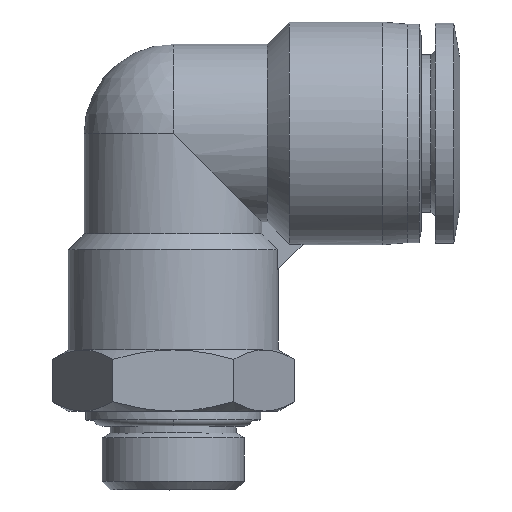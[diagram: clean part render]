
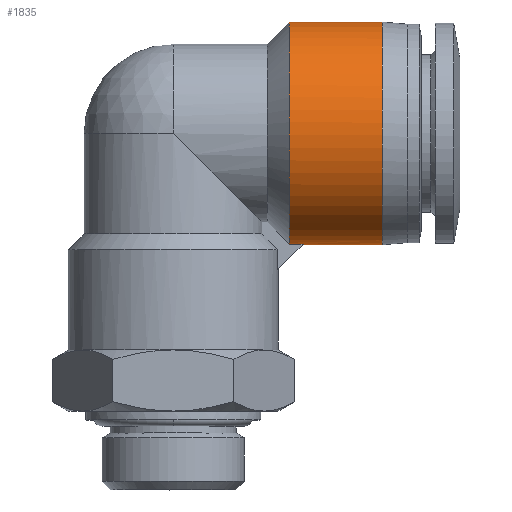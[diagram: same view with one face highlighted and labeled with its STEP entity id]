
A CAD part, top view. The second image highlights one B-rep face of the part: STEP entity #1835.
In plain terms, the highlighted cylindrical face has radius 12.75 mm (diameter 25.5 mm), a partial arc.
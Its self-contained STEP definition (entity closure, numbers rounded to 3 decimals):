
#38 = ORIENTED_EDGE ( 'NONE', *, *, #463, .T. ) ;
#101 = CARTESIAN_POINT ( 'NONE',  ( 23.942, 35.941, 6.421 ) ) ;
#127 = CARTESIAN_POINT ( 'NONE',  ( 13.3, 27.041, 12.655 ) ) ;
#145 = CARTESIAN_POINT ( 'NONE',  ( 13.3, 14.227, 7.307 ) ) ;
#156 = CARTESIAN_POINT ( 'NONE',  ( 23.942, 34.996, 7.835 ) ) ;
#161 = CYLINDRICAL_SURFACE ( 'NONE', #2535, 12.75 ) ;
#177 = CARTESIAN_POINT ( 'NONE',  ( 23.942, 31.221, 11.141 ) ) ;
#327 = DIRECTION ( 'NONE',  ( 1., 0., 0. ) ) ;
#419 = CARTESIAN_POINT ( 'NONE',  ( 23.942, 23.131, 12.75 ) ) ;
#463 = EDGE_CURVE ( 'NONE', #3097, #4292, #1593, .T. ) ;
#488 = CARTESIAN_POINT ( 'NONE',  ( 13.3, 35.149, 7.621 ) ) ;
#607 = B_SPLINE_CURVE_WITH_KNOTS ( 'NONE', 3,
 ( #2756, #2106, #3347, #1719 ),
 .UNSPECIFIED., .F., .F.,
 ( 4, 4 ),
 ( 0.5, 1. ),
 .UNSPECIFIED. ) ;
#667 = EDGE_CURVE ( 'NONE', #4141, #2697, #1391, .T. ) ;
#833 = ORIENTED_EDGE ( 'NONE', *, *, #2284, .F. ) ;
#836 = CARTESIAN_POINT ( 'NONE',  ( 23.942, 12.05, 0. ) ) ;
#843 = DIRECTION ( 'NONE',  ( 0., 1., 0. ) ) ;
#928 = EDGE_CURVE ( 'NONE', #3097, #4141, #2743, .T. ) ;
#1050 = ORIENTED_EDGE ( 'NONE', *, *, #1938, .T. ) ;
#1053 = EDGE_LOOP ( 'NONE', ( #833, #1050, #3731, #2137, #38, #1946 ) ) ;
#1089 = CARTESIAN_POINT ( 'NONE',  ( 13.3, 37.55, 0. ) ) ;
#1101 = CARTESIAN_POINT ( 'NONE',  ( 23.942, 16.965, 10.196 ) ) ;
#1107 = CARTESIAN_POINT ( 'NONE',  ( 13.3, 17.696, 10.711 ) ) ;
#1119 = CARTESIAN_POINT ( 'NONE',  ( 23.942, 12.05, 1.669 ) ) ;
#1141 = CARTESIAN_POINT ( 'NONE',  ( 13.3, 37.239, 3.233 ) ) ;
#1165 = DIRECTION ( 'NONE',  ( 1., 0., 0. ) ) ;
#1246 = CARTESIAN_POINT ( 'NONE',  ( 23.942, 37.55, 0. ) ) ;
#1310 = LINE ( 'NONE', #3291, #1981 ) ;
#1391 = B_SPLINE_CURVE_WITH_KNOTS ( 'NONE', 3,
 ( #2469, #2449, #1760, #101, #156, #2166, #177, #2142, #4070, #419, #2120, #4107, #1101, #2753, #1491, #3466, #1119, #836 ),
 .UNSPECIFIED., .F., .F.,
 ( 4, 2, 2, 2, 2, 2, 2, 2, 4 ),
 ( 0., 0.063, 0.125, 0.188, 0.25, 0.313, 0.375, 0.438, 0.5 ),
 .UNSPECIFIED. ) ;
#1440 = CARTESIAN_POINT ( 'NONE',  ( 13.3, 23.811, 12.814 ) ) ;
#1460 = CARTESIAN_POINT ( 'NONE',  ( 13.3, 12.738, 4.437 ) ) ;
#1491 = CARTESIAN_POINT ( 'NONE',  ( 23.942, 13.659, 6.421 ) ) ;
#1593 = B_SPLINE_CURVE_WITH_KNOTS ( 'NONE', 3,
 ( #1089, #3741, #1141, #3417, #488, #1785, #1767, #3398, #127, #1440, #2479, #4096, #1107, #3110, #145, #1460, #2779, #4114 ),
 .UNSPECIFIED., .F., .F.,
 ( 4, 2, 2, 2, 2, 2, 2, 2, 4 ),
 ( 0.5, 0.562, 0.625, 0.687, 0.75, 0.812, 0.875, 0.938, 1. ),
 .UNSPECIFIED. ) ;
#1618 = FACE_OUTER_BOUND ( 'NONE', #1053, .T. ) ;
#1719 = CARTESIAN_POINT ( 'NONE',  ( 14.861, 12.111, 1.25 ) ) ;
#1729 = CARTESIAN_POINT ( 'NONE',  ( 13.3, 12.111, 1.25 ) ) ;
#1760 = CARTESIAN_POINT ( 'NONE',  ( 23.942, 37.218, 3.337 ) ) ;
#1767 = CARTESIAN_POINT ( 'NONE',  ( 13.3, 31.58, 10.919 ) ) ;
#1768 = CARTESIAN_POINT ( 'NONE',  ( 18.621, 37.55, 0. ) ) ;
#1785 = CARTESIAN_POINT ( 'NONE',  ( 13.3, 32.919, 9.963 ) ) ;
#1835 = ADVANCED_FACE ( 'NONE', ( #1618 ), #161, .T. ) ;
#1919 = CARTESIAN_POINT ( 'NONE',  ( 18.621, 24.8, 0. ) ) ;
#1924 = CARTESIAN_POINT ( 'NONE',  ( 13.3, 12.111, 1.25 ) ) ;
#1938 = EDGE_CURVE ( 'NONE', #4056, #2697, #1310, .T. ) ;
#1946 = ORIENTED_EDGE ( 'NONE', *, *, #3885, .F. ) ;
#1950 = CARTESIAN_POINT ( 'NONE',  ( 13.82, 12.111, 1.25 ) ) ;
#1981 = VECTOR ( 'NONE', #327, 1000. ) ;
#2102 = CARTESIAN_POINT ( 'NONE',  ( 14.8, 12.05, 0. ) ) ;
#2106 = CARTESIAN_POINT ( 'NONE',  ( 14.8, 12.05, 0.417 ) ) ;
#2120 = CARTESIAN_POINT ( 'NONE',  ( 23.942, 21.463, 12.418 ) ) ;
#2137 = ORIENTED_EDGE ( 'NONE', *, *, #928, .F. ) ;
#2142 = CARTESIAN_POINT ( 'NONE',  ( 23.942, 28.137, 12.418 ) ) ;
#2166 = CARTESIAN_POINT ( 'NONE',  ( 23.942, 32.635, 10.196 ) ) ;
#2284 = EDGE_CURVE ( 'NONE', #4056, #2902, #607, .T. ) ;
#2449 = CARTESIAN_POINT ( 'NONE',  ( 23.942, 37.55, 1.669 ) ) ;
#2468 = B_SPLINE_CURVE_WITH_KNOTS ( 'NONE', 3,
 ( #3912, #2973, #1950, #1924 ),
 .UNSPECIFIED., .F., .F.,
 ( 4, 4 ),
 ( 0., 1. ),
 .UNSPECIFIED. ) ;
#2469 = CARTESIAN_POINT ( 'NONE',  ( 23.942, 37.55, 0. ) ) ;
#2479 = CARTESIAN_POINT ( 'NONE',  ( 13.3, 22.181, 12.582 ) ) ;
#2535 = AXIS2_PLACEMENT_3D ( 'NONE', #1919, #3906, #843 ) ;
#2697 = VERTEX_POINT ( 'NONE', #3589 ) ;
#2743 = LINE ( 'NONE', #1768, #3971 ) ;
#2753 = CARTESIAN_POINT ( 'NONE',  ( 23.942, 14.604, 7.835 ) ) ;
#2756 = CARTESIAN_POINT ( 'NONE',  ( 14.8, 12.05, 0. ) ) ;
#2779 = CARTESIAN_POINT ( 'NONE',  ( 13.3, 12.27, 2.859 ) ) ;
#2782 = CARTESIAN_POINT ( 'NONE',  ( 14.861, 12.111, 1.25 ) ) ;
#2902 = VERTEX_POINT ( 'NONE', #2782 ) ;
#2973 = CARTESIAN_POINT ( 'NONE',  ( 14.341, 12.111, 1.25 ) ) ;
#3000 = CARTESIAN_POINT ( 'NONE',  ( 13.3, 37.55, 0. ) ) ;
#3097 = VERTEX_POINT ( 'NONE', #3000 ) ;
#3110 = CARTESIAN_POINT ( 'NONE',  ( 13.3, 15.248, 8.599 ) ) ;
#3291 = CARTESIAN_POINT ( 'NONE',  ( 18.621, 12.05, 0. ) ) ;
#3347 = CARTESIAN_POINT ( 'NONE',  ( 14.82, 12.07, 0.833 ) ) ;
#3398 = CARTESIAN_POINT ( 'NONE',  ( 13.3, 28.64, 12.265 ) ) ;
#3417 = CARTESIAN_POINT ( 'NONE',  ( 13.3, 36.038, 6.235 ) ) ;
#3466 = CARTESIAN_POINT ( 'NONE',  ( 23.942, 12.382, 3.337 ) ) ;
#3589 = CARTESIAN_POINT ( 'NONE',  ( 23.942, 12.05, 0. ) ) ;
#3731 = ORIENTED_EDGE ( 'NONE', *, *, #667, .F. ) ;
#3741 = CARTESIAN_POINT ( 'NONE',  ( 13.3, 37.55, 1.617 ) ) ;
#3885 = EDGE_CURVE ( 'NONE', #2902, #4292, #2468, .T. ) ;
#3906 = DIRECTION ( 'NONE',  ( 1., 0., 0. ) ) ;
#3912 = CARTESIAN_POINT ( 'NONE',  ( 14.861, 12.111, 1.25 ) ) ;
#3971 = VECTOR ( 'NONE', #1165, 1000. ) ;
#4056 = VERTEX_POINT ( 'NONE', #2102 ) ;
#4070 = CARTESIAN_POINT ( 'NONE',  ( 23.942, 26.469, 12.75 ) ) ;
#4096 = CARTESIAN_POINT ( 'NONE',  ( 13.3, 19.124, 11.531 ) ) ;
#4107 = CARTESIAN_POINT ( 'NONE',  ( 23.942, 18.379, 11.141 ) ) ;
#4114 = CARTESIAN_POINT ( 'NONE',  ( 13.3, 12.111, 1.25 ) ) ;
#4141 = VERTEX_POINT ( 'NONE', #1246 ) ;
#4292 = VERTEX_POINT ( 'NONE', #1729 ) ;
